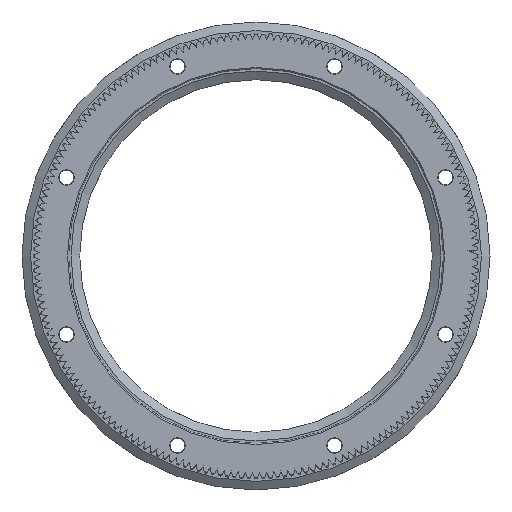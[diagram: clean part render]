
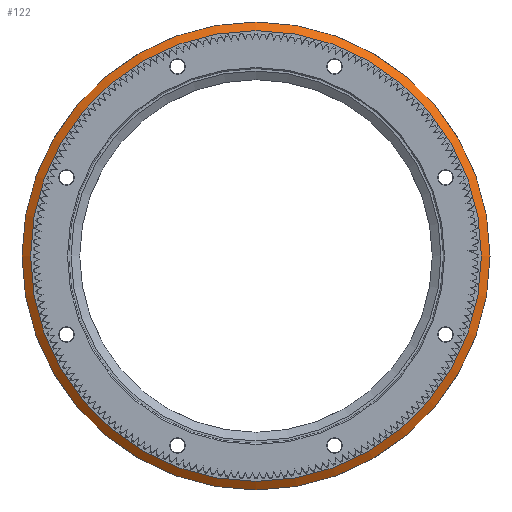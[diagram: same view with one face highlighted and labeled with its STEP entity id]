
A CAD part, front view. The second image highlights one B-rep face of the part: STEP entity #122.
In plain terms, the highlighted conical face has half-angle 55 degrees and reference radius 78.543 mm.
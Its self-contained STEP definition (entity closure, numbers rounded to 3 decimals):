
#122 = ADVANCED_FACE( '', ( #1425, #1426 ), #1427, .T. );
#1425 = FACE_OUTER_BOUND( '', #3887, .T. );
#1426 = FACE_BOUND( '', #3888, .T. );
#1427 = CONICAL_SURFACE( '', #3889, 78.543, 0.96 );
#3887 = EDGE_LOOP( '', ( #7044 ) );
#3888 = EDGE_LOOP( '', ( #7045 ) );
#3889 = AXIS2_PLACEMENT_3D( '', #7046, #7047, #7048 );
#7044 = ORIENTED_EDGE( '', *, *, #16698, .T. );
#7045 = ORIENTED_EDGE( '', *, *, #16699, .F. );
#7046 = CARTESIAN_POINT( '', ( 0., 5.8, 0. ) );
#7047 = DIRECTION( '', ( 0., 1., 0. ) );
#7048 = DIRECTION( '', ( 0., 0., 1. ) );
#16698 = EDGE_CURVE( '', #20464, #20464, #20465, .T. );
#16699 = EDGE_CURVE( '', #20466, #20466, #20467, .T. );
#20464 = VERTEX_POINT( '', #25985 );
#20465 = CIRCLE( '', #25986, 81.474 );
#20466 = VERTEX_POINT( '', #25987 );
#20467 = CIRCLE( '', #25988, 78.543 );
#25985 = CARTESIAN_POINT( '', ( 0., 7.853, -81.474 ) );
#25986 = AXIS2_PLACEMENT_3D( '', #33388, #33389, #33390 );
#25987 = CARTESIAN_POINT( '', ( 0., 5.8, -78.543 ) );
#25988 = AXIS2_PLACEMENT_3D( '', #33391, #33392, #33393 );
#33388 = CARTESIAN_POINT( '', ( 0., 7.853, 0. ) );
#33389 = DIRECTION( '', ( 0., -1., 0. ) );
#33390 = DIRECTION( '', ( 0., 0., -1. ) );
#33391 = CARTESIAN_POINT( '', ( 0., 5.8, 0. ) );
#33392 = DIRECTION( '', ( 0., -1., 0. ) );
#33393 = DIRECTION( '', ( 0., 0., -1. ) );
